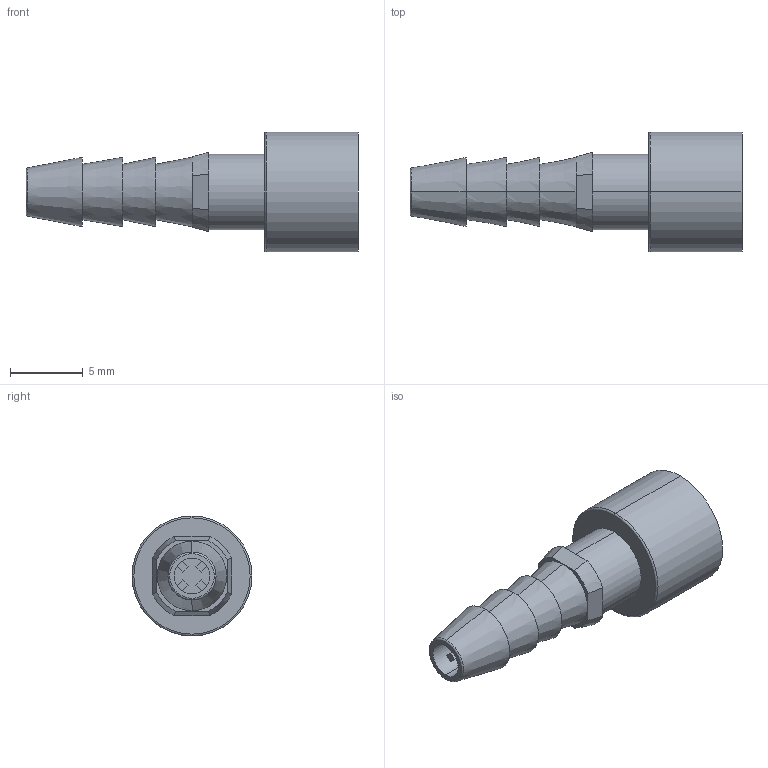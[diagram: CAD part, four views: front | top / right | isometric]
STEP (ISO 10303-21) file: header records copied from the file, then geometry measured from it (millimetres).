
FILE_DESCRIPTION (( 'STEP AP214' ), '1' );
FILE_NAME ('CX-4.0VC.STEP', '2006-07-06T14:09:22', ( 'Mencom User' ), ( 'Mencom Corporation' ), 'SwSTEP 2.0', 'SolidWorks 2006104', '' );
FILE_SCHEMA (( 'AUTOMOTIVE_DESIGN' ));
Length unit declared in the file: inch
Products named in the file (1): CX-4.0VC
Bounding box: 22.86 x 8.26 x 8.26 mm (x, y, z)
Volume: 377.9 mm3; surface area: 788 mm2
Topology: 1 solids, 1 shells, 78 faces, 178 edges, 116 vertices
Faces by surface type: plane 48, cone 14, cylinder 10, torus 6
Entity records: 2460 total; most frequent: CARTESIAN_POINT 397, DIRECTION 394, ORIENTED_EDGE 356, EDGE_CURVE 178, AXIS2_PLACEMENT_3D 145, VERTEX_POINT 116, LINE 104, VECTOR 104
